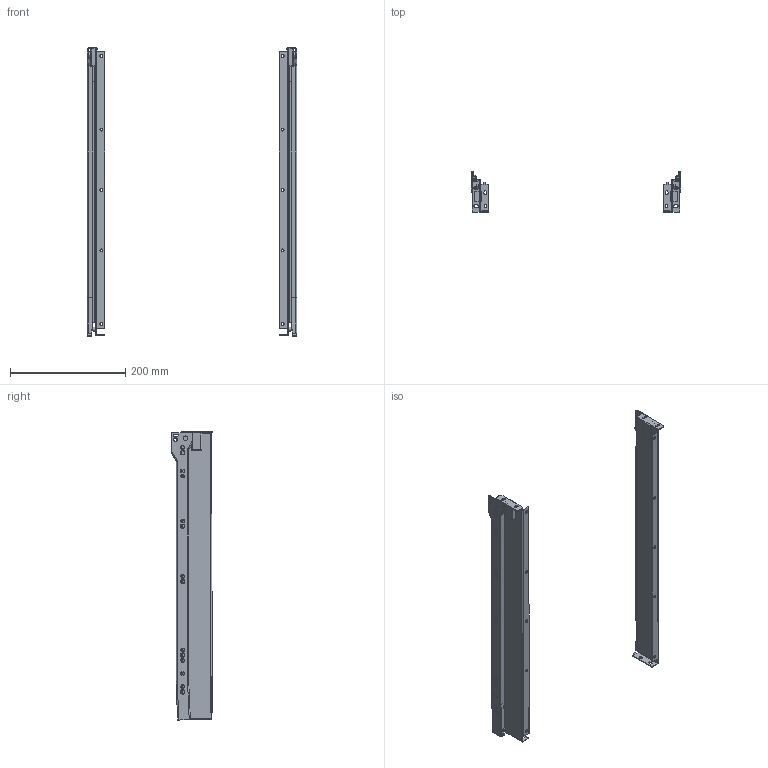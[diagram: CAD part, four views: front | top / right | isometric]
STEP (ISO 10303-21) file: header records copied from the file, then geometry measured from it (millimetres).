
FILE_DESCRIPTION(/* description */ (''),/* implementation_level */ '2;1');
FILE_NAME(/* name */ 'D:\$Workingspace\Designs\Katalog\Cadsoft\GTV Prwadnice II\MP (2)\MP\Metal box 3D\MP-054500-10.stp',/* time_stamp */ '2017-02-09T10:07:59+01:00',/* author */ ('tomaszw'),/* organization */ (''),/* preprocessor_version */ 'ST-DEVELOPER v16.1',/* originating_system */ 'Autodesk Inventor 2016',/* authorisation */ '');
FILE_SCHEMA (('CONFIG_CONTROL_DESIGN'));
Length unit declared in the file: millimetre
Products named in the file (5): MP-500-10_CL; MP-500-10_CR; MP-054500-10_DL; MP-054500-10_DR; MP
Assembly tree (4 placements, depth 2):
  MP
    MP-500-10_CL
    MP-500-10_CR
    MP-054500-10_DL
    MP-054500-10_DR
Bounding box: 364 x 70.57 x 501.1 mm (x, y, z)
Volume: 157641.4 mm3; surface area: 247419.6 mm2
Topology: 8 solids, 8 shells, 482 faces, 1240 edges, 786 vertices
Faces by surface type: plane 218, cylinder 198, cone 34, torus 20, sphere 12
Full cylindrical faces by diameter (mm): 4.8 x2, 5 x10, 5.5 x14, 6.5 x10, 7 x4, 8 x4, 18.5 x4
Entity records: 15131 total; most frequent: CARTESIAN_POINT 2649, DIRECTION 2552, ORIENTED_EDGE 2300, EDGE_CURVE 1150, AXIS2_PLACEMENT_3D 929, VERTEX_POINT 778, LINE 694, VECTOR 694
